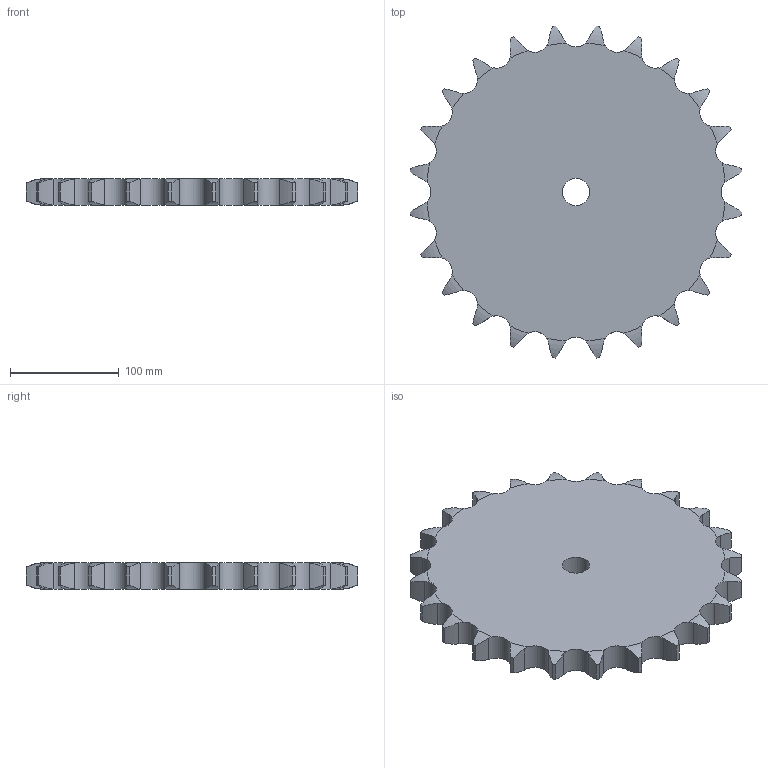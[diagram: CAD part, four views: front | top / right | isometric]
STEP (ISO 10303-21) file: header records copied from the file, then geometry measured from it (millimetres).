
FILE_DESCRIPTION((''),'2;1');
FILE_NAME('500-701-0024_PRT','2021-02-12T',('Brieden'),('Brieden'),'PRO/ENGINEER BY PARAMETRIC TECHNOLOGY CORPORATION, 2010160','PRO/ENGINEER BY PARAMETRIC TECHNOLOGY CORPORATION, 2010160','');
FILE_SCHEMA(('AUTOMOTIVE_DESIGN { 1 0 10303 214 1 1 1 1 }'));
Length unit declared in the file: millimetre
Products named in the file (1): 500-701-0024_PRT
Bounding box: 304.59 x 304.59 x 24.1 mm (x, y, z)
Volume: 1474528.1 mm3; surface area: 156747.1 mm2
Topology: 1 solids, 1 shells, 148 faces, 438 edges, 292 vertices
Faces by surface type: cylinder 98, torus 48, plane 2
Entity records: 7360 total; most frequent: CARTESIAN_POINT 2247, ORIENTED_EDGE 876, DIRECTION 690, PRESENTATION_STYLE_ASSIGNMENT 439, STYLED_ITEM 439, CURVE_STYLE 438, EDGE_CURVE 438, AXIS2_PLACEMENT_3D 296
